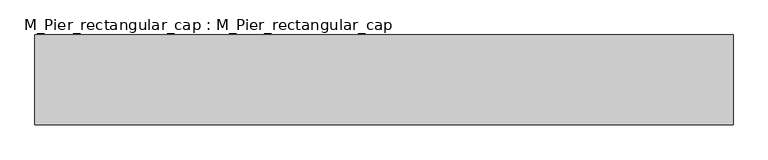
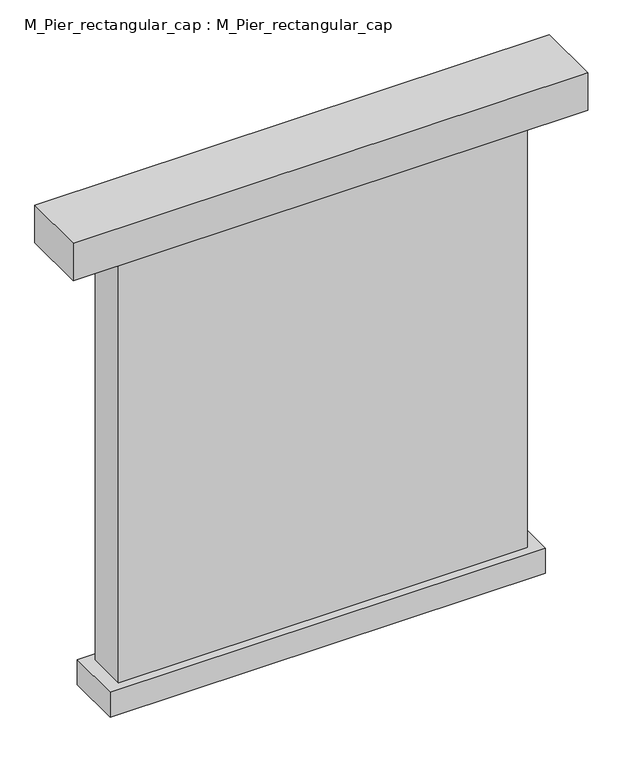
"""IFC4 building model written with IfcOpenShell, lengths in millimetres: proxy geometry, M_Pier_rectangular_cap : M_Pier_rectangular_cap."""

from ifc_helpers import new_model, si_unit, frame, origin, place, context, project, spatial, polyline, outline, extrude, source, transform, mapped, element, save


def m_pier_rectangular_cap_m_pier_rectangular_cap_ed16dbf9(model_context):
    return source(origin(), model_context, "Body", "SweptSolid", [
        extrude(outline(polyline([(4940.0, 650.0), (4940.0, -650.0), (-4940.0, -650.0), (-4940.0, 650.0), (4940.0, 650.0)])), frame((0.0, 0.0, -11756.0453888), z_axis=(0.0, 0.0, 1.0), x_axis=(1.0, 0.0, 0.0)), (0.0, 0.0, 1.0), 600.0),
        extrude(outline(polyline([(4640.0, 450.0), (4640.0, -450.0), (-4640.0, -450.0), (-4640.0, 450.0), (4640.0, 450.0)])), frame((0.0, 0.0, -11156.0453888), z_axis=(0.0, 0.0, 1.0), x_axis=(1.0, 0.0, 0.0)), (0.0, 0.0, 1.0), 10256.0453888),
        extrude(outline(polyline([(5840.0, 750.0), (5840.0, -750.0), (-5840.0, -750.0), (-5840.0, 750.0), (5840.0, 750.0)])), frame((0.0, 0.0, -900.0), z_axis=(0.0, 0.0, 1.0), x_axis=(1.0, 0.0, 0.0)), (0.0, 0.0, 1.0), 900.0),
    ])


if __name__ == "__main__":
    model = new_model("IFC4")
    model_context = context("Model", 3, world=origin())
    ifc_project = project(units=[si_unit("LENGTHUNIT", "METRE", prefix="MILLI")], contexts=[model_context])
    site = spatial("IfcSite", under=ifc_project)
    building = spatial("IfcBuilding", under=site)
    placement = place(None, origin())
    m_pier_rectangular_cap_m_pier_rectangular_cap_shape = m_pier_rectangular_cap_m_pier_rectangular_cap_ed16dbf9(model_context)
    element("IfcBuildingElementProxy", 1, Name="M_Pier_rectangular_cap : M_Pier_rectangular_cap", ObjectType="M_Pier_rectangular_cap : M_Pier_rectangular_cap", at=placement, inside=building, context=model_context, shape_type="MappedRepresentation", body=[
        mapped(m_pier_rectangular_cap_m_pier_rectangular_cap_shape, transform((0.0, 0.0, 0.0), x_axis=(1.0, 0.0, 0.0), y_axis=(0.0, 1.0, 0.0), z_axis=(0.0, 0.0, 1.0))),
    ])
    save(model, "model.ifc")
